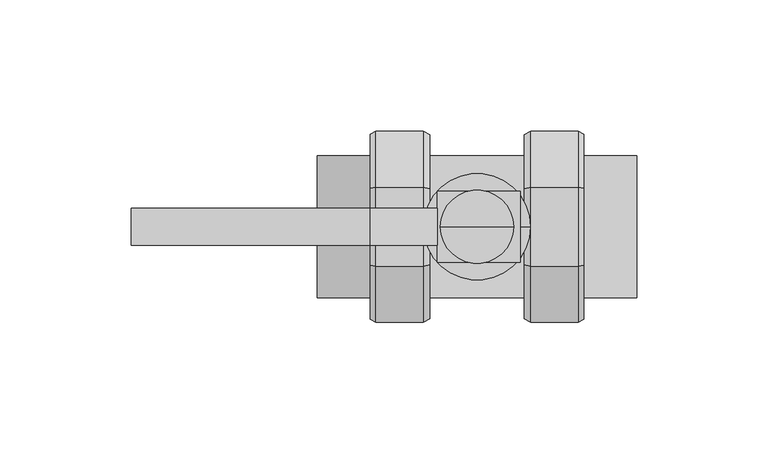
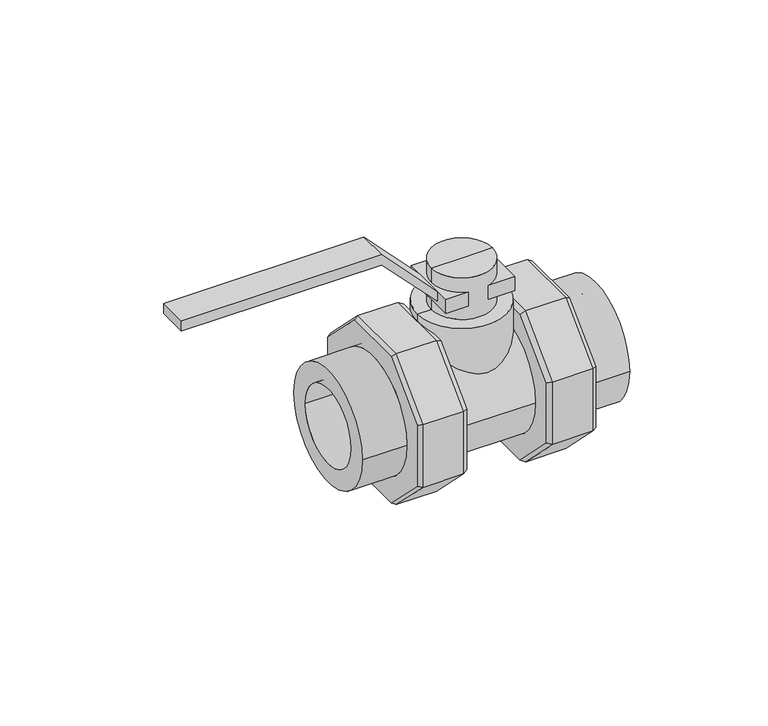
"""IFC4 building model written with IfcOpenShell, lengths in millimetres: valve geometry, EGB_VASEN_ PPR_Valvula de bola doble union WXR800 : Válvula de bola doble unión WXR800."""

from ifc_helpers import new_model, si_unit, point, frame, origin, origin_2d, place, context, project, spatial, polyline, circle_curve, trimmed, segment, composite_curve, outline, extrude, source, transform, mapped, element, save
from ifc_brep_helpers import plane_surface, cylinder_surface, revolved_surface, advanced_brep


def valve_10320c40(model_context):
    return source(origin(), model_context, "Body", "SolidModel", [
        advanced_brep(
        [(38.6666667, 15.118795, 36.5), (38.6666667, 36.5, 15.118795), (20.4559164, 36.5, 15.118795), (20.4559164, 15.118795, 36.5), (20.4559164, -15.118795, 36.5), (38.6666667, -15.118795, 36.5), (38.6666667, -15.118795, -36.5), (38.6666667, -36.5, -15.118795), (20.4559164, -36.5, -15.118795), (20.4559164, -15.118795, -36.5), (20.4559164, 15.118795, -36.5), (38.6666667, 15.118795, -36.5), (20.4559164, -36.5, 15.118795), (38.6666667, -36.5, 15.118795), (20.4559164, 36.5, -15.118795), (38.6666667, 36.5, -15.118795), (40.6666667, 14.6405024, 35.3452995), (40.6666667, -14.6405024, 35.3452995), (40.6666667, -35.3452995, 14.6405024), (40.6666667, -35.3452995, -14.6405024), (40.6666667, -14.6405024, -35.3452995), (40.6666667, 14.6405024, -35.3452995), (40.6666667, 35.3452995, -14.6405024), (40.6666667, 35.3452995, 14.6405024), (40.6666667, 27.0, 0.0), (40.6666667, -27.0, 0.0), (18.0064267, 35.0857864, 14.5330086), (18.0064267, 35.0857864, -14.5330086), (18.0064267, 14.5330086, -35.0857864), (18.0064267, -14.5330086, -35.0857864), (18.0064267, -35.0857864, -14.5330086), (18.0064267, -35.0857864, 14.5330086), (18.0064267, -14.5330086, 35.0857864), (18.0064267, 14.5330086, 35.0857864), (18.0064267, -27.0, 0.0), (18.0064267, 27.0, 0.0)],
        [
            (0, 1),
            (1, 2),
            (2, 3),
            (3, 0),
            (3, 4),
            (4, 5),
            (5, 0),
            (6, 7),
            (7, 8),
            (8, 9),
            (9, 6),
            (9, 10),
            (10, 11),
            (11, 6),
            (4, 12),
            (12, 13),
            (13, 5),
            (12, 8),
            (7, 13),
            (10, 14),
            (14, 15),
            (15, 11),
            (16, 17),
            (17, 18),
            (18, 19),
            (19, 20),
            (20, 21),
            (21, 22),
            (22, 23),
            (23, 16),
            (24, 25, circle_curve(frame((40.6666667, 0.0, 0.0), z_axis=(-1.0, 0.0, 0.0), x_axis=(0.0, -1.0, 0.0)), 27.0)),
            (25, 24, circle_curve(frame((40.6666667, 0.0, 0.0), z_axis=(-1.0, 0.0, 0.0), x_axis=(0.0, -1.0, 0.0)), 27.0)),
            (14, 2),
            (1, 15),
            (26, 27),
            (27, 28),
            (28, 29),
            (29, 30),
            (30, 31),
            (31, 32),
            (32, 33),
            (33, 26),
            (34, 35, circle_curve(frame((18.0064267, 0.0, 0.0), z_axis=(1.0, 0.0, 0.0), x_axis=(0.0, -1.0, 0.0)), 27.0)),
            (35, 34, circle_curve(frame((18.0064267, 0.0, 0.0), z_axis=(1.0, 0.0, 0.0), x_axis=(0.0, -1.0, 0.0)), 27.0)),
            (2, 26),
            (33, 3),
            (23, 1),
            (0, 16),
            (32, 4),
            (5, 17),
            (8, 30),
            (29, 9),
            (19, 7),
            (6, 20),
            (28, 10),
            (11, 21),
            (31, 12),
            (13, 18),
            (27, 14),
            (15, 22),
            (25, 34),
            (35, 24),
        ],
        [
            plane_surface(frame((40.6666667, 36.5, 15.118795), z_axis=(0.0, 0.7071067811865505, 0.7071067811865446), x_axis=(0.0, -0.7071067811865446, 0.7071067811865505))),
            plane_surface(frame((40.6666667, 15.118795, 36.5), z_axis=(0.0, 0.0, 1.0), x_axis=(0.0, -1.0, 0.0))),
            plane_surface(frame((40.6666667, -36.5, -15.118795), z_axis=(0.0, -0.7071067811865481, -0.707106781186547), x_axis=(0.0, 0.707106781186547, -0.7071067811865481))),
            plane_surface(frame((40.6666667, -15.118795, -36.5), z_axis=(0.0, 0.0, -1.0), x_axis=(0.0, 1.0, 0.0))),
            plane_surface(frame((40.6666667, -15.118795, 36.5), z_axis=(0.0, -0.7071067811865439, 0.7071067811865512), x_axis=(0.0, -0.7071067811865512, -0.7071067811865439))),
            plane_surface(frame((40.6666667, -36.5, 15.118795), z_axis=(0.0, -1.0, 0.0), x_axis=(0.0, 0.0, -1.0))),
            plane_surface(frame((40.6666667, 15.118795, -36.5), z_axis=(0.0, 0.7071067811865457, -0.7071067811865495), x_axis=(0.0, 0.7071067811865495, 0.7071067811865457))),
            plane_surface(frame((40.6666667, 0.0, 0.0), z_axis=(1.0, 0.0, 0.0), x_axis=(0.0, 0.0, 1.0))),
            plane_surface(frame((40.6666667, 36.5, -15.118795), z_axis=(0.0, 1.0, 0.0), x_axis=(0.0, 0.0, 1.0))),
            plane_surface(frame((18.0064267, 36.5, -15.118795), z_axis=(-1.0, 0.0, 0.0), x_axis=(0.0, 0.0, 1.0))),
            plane_surface(frame((18.0064267, 35.0857864, 14.5330086), z_axis=(-0.4999999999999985, 0.6123724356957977, 0.6123724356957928), x_axis=(0.0, -0.7071067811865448, 0.7071067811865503))),
            plane_surface(frame((38.6666667, 36.5, 15.118795), z_axis=(0.4999999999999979, 0.6123724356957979, 0.612372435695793), x_axis=(0.0, -0.7071067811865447, 0.7071067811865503))),
            plane_surface(frame((18.0064267, 14.5330086, 35.0857864), z_axis=(-0.49999999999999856, 0.0, 0.8660254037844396), x_axis=(0.0, -1.0, 0.0))),
            plane_surface(frame((38.6666667, 15.118795, 36.5), z_axis=(0.4999999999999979, 0.0, 0.8660254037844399), x_axis=(0.0, -1.0, 0.0))),
            plane_surface(frame((18.0064267, -35.0857864, -14.5330086), z_axis=(-0.49999999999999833, -0.6123724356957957, -0.6123724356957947), x_axis=(0.0, 0.7071067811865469, -0.7071067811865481))),
            plane_surface(frame((38.6666667, -36.5, -15.118795), z_axis=(0.49999999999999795, -0.6123724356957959, -0.612372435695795), x_axis=(0.0, 0.707106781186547, -0.7071067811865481))),
            plane_surface(frame((18.0064267, -14.5330086, -35.0857864), z_axis=(-0.49999999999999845, 0.0, -0.8660254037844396), x_axis=(0.0, 1.0, 0.0))),
            plane_surface(frame((38.6666667, -15.118795, -36.5), z_axis=(0.4999999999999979, 0.0, -0.8660254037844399), x_axis=(0.0, 1.0, 0.0))),
            plane_surface(frame((18.0064267, -14.5330086, 35.0857864), z_axis=(-0.49999999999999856, -0.612372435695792, 0.6123724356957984), x_axis=(0.0, -0.7071067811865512, -0.7071067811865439))),
            plane_surface(frame((38.6666667, -15.118795, 36.5), z_axis=(0.4999999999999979, -0.6123724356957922, 0.6123724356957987), x_axis=(0.0, -0.7071067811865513, -0.7071067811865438))),
            plane_surface(frame((18.0064267, -35.0857864, 14.5330086), z_axis=(-0.4999999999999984, -0.8660254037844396, 0.0), x_axis=(0.0, 0.0, -1.0))),
            plane_surface(frame((38.6666667, -36.5, 15.118795), z_axis=(0.4999999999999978, -0.8660254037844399, 0.0), x_axis=(0.0, 0.0, -1.0))),
            plane_surface(frame((18.0064267, 14.5330086, -35.0857864), z_axis=(-0.49999999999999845, 0.6123724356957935, -0.6123724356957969), x_axis=(0.0, 0.7071067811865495, 0.7071067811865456))),
            plane_surface(frame((38.6666667, 15.118795, -36.5), z_axis=(0.49999999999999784, 0.6123724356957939, -0.612372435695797), x_axis=(0.0, 0.7071067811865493, 0.7071067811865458))),
            plane_surface(frame((18.0064267, 35.0857864, -14.5330086), z_axis=(-0.4999999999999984, 0.8660254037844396, 0.0), x_axis=(0.0, 0.0, 1.0))),
            plane_surface(frame((38.6666667, 36.5, -15.118795), z_axis=(0.4999999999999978, 0.8660254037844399, 0.0), x_axis=(0.0, 0.0, 1.0))),
            revolved_surface(polyline([(18.0064267, -27.0, 0.0), (40.6666667, -27.0, 0.0)]), (40.6666667, 0.0, 0.0), (-1.0, 0.0, 0.0)),
        ],
        [
            (0, [[1, 2, 3, 4]]),
            (1, [[5, 6, 7, -4]]),
            (2, [[8, 9, 10, 11]]),
            (3, [[12, 13, 14, -11]]),
            (4, [[15, 16, 17, -6]]),
            (5, [[18, -9, 19, -16]]),
            (6, [[20, 21, 22, -13]]),
            (7, [[23, 24, 25, 26, 27, 28, 29, 30], [31, 32]]),
            (8, [[33, -2, 34, -21]]),
            (9, [[35, 36, 37, 38, 39, 40, 41, 42], [43, 44]]),
            (10, [[-3, 45, -42, 46]]),
            (11, [[-30, 47, -1, 48]]),
            (12, [[-41, 49, -5, -46]]),
            (13, [[-7, 50, -23, -48]]),
            (14, [[-10, 51, -38, 52]]),
            (15, [[-26, 53, -8, 54]]),
            (16, [[-37, 55, -12, -52]]),
            (17, [[-14, 56, -27, -54]]),
            (18, [[-40, 57, -15, -49]]),
            (19, [[-17, 58, -24, -50]]),
            (20, [[-18, -57, -39, -51]]),
            (21, [[-25, -58, -19, -53]]),
            (22, [[-36, 59, -20, -55]]),
            (23, [[-22, 60, -28, -56]]),
            (24, [[-33, -59, -35, -45]]),
            (25, [[-29, -60, -34, -47]]),
            (26, [[-32, 61, -44, 62]]),
            (26, [[-43, -61, -31, -62]]),
        ],
    ),
        advanced_brep(
        [(-38.6666667, 15.118795, 36.5), (-20.4559164, 15.118795, 36.5), (-20.4559164, 36.5, 15.118795), (-38.6666667, 36.5, 15.118795), (-38.6666667, -15.118795, 36.5), (-20.4559164, -15.118795, 36.5), (-38.6666667, -15.118795, -36.5), (-20.4559164, -15.118795, -36.5), (-20.4559164, -36.5, -15.118795), (-38.6666667, -36.5, -15.118795), (-38.6666667, 15.118795, -36.5), (-20.4559164, 15.118795, -36.5), (-38.6666667, -36.5, 15.118795), (-20.4559164, -36.5, 15.118795), (-38.6666667, 36.5, -15.118795), (-20.4559164, 36.5, -15.118795), (-40.6666667, 14.6405024, 35.3452995), (-40.6666667, 35.3452995, 14.6405024), (-40.6666667, 35.3452995, -14.6405024), (-40.6666667, 14.6405024, -35.3452995), (-40.6666667, -14.6405024, -35.3452995), (-40.6666667, -35.3452995, -14.6405024), (-40.6666667, -35.3452995, 14.6405024), (-40.6666667, -14.6405024, 35.3452995), (-40.6666667, 27.0, 0.0), (-40.6666667, -27.0, 0.0), (-18.0064267, 35.0857864, 14.5330086), (-18.0064267, 14.5330086, 35.0857864), (-18.0064267, -14.5330086, 35.0857864), (-18.0064267, -35.0857864, 14.5330086), (-18.0064267, -35.0857864, -14.5330086), (-18.0064267, -14.5330086, -35.0857864), (-18.0064267, 14.5330086, -35.0857864), (-18.0064267, 35.0857864, -14.5330086), (-18.0064267, -27.0, 0.0), (-18.0064267, 27.0, 0.0)],
        [
            (0, 1),
            (1, 2),
            (2, 3),
            (3, 0),
            (0, 4),
            (4, 5),
            (5, 1),
            (6, 7),
            (7, 8),
            (8, 9),
            (9, 6),
            (6, 10),
            (10, 11),
            (11, 7),
            (4, 12),
            (12, 13),
            (13, 5),
            (12, 9),
            (8, 13),
            (10, 14),
            (14, 15),
            (15, 11),
            (16, 17),
            (17, 18),
            (18, 19),
            (19, 20),
            (20, 21),
            (21, 22),
            (22, 23),
            (23, 16),
            (24, 25, circle_curve(frame((-40.6666667, 0.0, 0.0), z_axis=(1.0, 0.0, 0.0), x_axis=(0.0, -1.0, 0.0)), 27.0)),
            (25, 24, circle_curve(frame((-40.6666667, 0.0, 0.0), z_axis=(1.0, 0.0, 0.0), x_axis=(0.0, -1.0, 0.0)), 27.0)),
            (14, 3),
            (2, 15),
            (26, 27),
            (27, 28),
            (28, 29),
            (29, 30),
            (30, 31),
            (31, 32),
            (32, 33),
            (33, 26),
            (34, 35, circle_curve(frame((-18.0064267, 0.0, 0.0), z_axis=(-1.0, 0.0, 0.0), x_axis=(0.0, -1.0, 0.0)), 27.0)),
            (35, 34, circle_curve(frame((-18.0064267, 0.0, 0.0), z_axis=(-1.0, 0.0, 0.0), x_axis=(0.0, -1.0, 0.0)), 27.0)),
            (1, 27),
            (26, 2),
            (16, 0),
            (3, 17),
            (5, 28),
            (23, 4),
            (7, 31),
            (30, 8),
            (20, 6),
            (9, 21),
            (11, 32),
            (19, 10),
            (13, 29),
            (22, 12),
            (15, 33),
            (18, 14),
            (24, 35),
            (34, 25),
        ],
        [
            plane_surface(frame((-40.6666667, 36.5, 15.118795), z_axis=(0.0, 0.7071067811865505, 0.7071067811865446), x_axis=(0.0, -0.7071067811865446, 0.7071067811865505))),
            plane_surface(frame((-40.6666667, 15.118795, 36.5), z_axis=(0.0, 0.0, 1.0), x_axis=(0.0, -1.0, 0.0))),
            plane_surface(frame((-40.6666667, -36.5, -15.118795), z_axis=(0.0, -0.7071067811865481, -0.707106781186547), x_axis=(0.0, 0.707106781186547, -0.7071067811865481))),
            plane_surface(frame((-40.6666667, -15.118795, -36.5), z_axis=(0.0, 0.0, -1.0), x_axis=(0.0, 1.0, 0.0))),
            plane_surface(frame((-40.6666667, -15.118795, 36.5), z_axis=(0.0, -0.7071067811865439, 0.7071067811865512), x_axis=(0.0, -0.7071067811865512, -0.7071067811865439))),
            plane_surface(frame((-40.6666667, -36.5, 15.118795), z_axis=(0.0, -1.0, 0.0), x_axis=(0.0, 0.0, -1.0))),
            plane_surface(frame((-40.6666667, 15.118795, -36.5), z_axis=(0.0, 0.7071067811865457, -0.7071067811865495), x_axis=(0.0, 0.7071067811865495, 0.7071067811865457))),
            plane_surface(frame((-40.6666667, 0.0, 0.0), z_axis=(-1.0, 0.0, 0.0), x_axis=(0.0, 0.0, 1.0))),
            plane_surface(frame((-40.6666667, 36.5, -15.118795), z_axis=(0.0, 1.0, 0.0), x_axis=(0.0, 0.0, 1.0))),
            plane_surface(frame((-18.0064267, 36.5, -15.118795), z_axis=(1.0, 0.0, 0.0), x_axis=(0.0, 0.0, 1.0))),
            plane_surface(frame((-18.0064267, 35.0857864, 14.5330086), z_axis=(0.4999999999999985, 0.6123724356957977, 0.6123724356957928), x_axis=(0.0, -0.7071067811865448, 0.7071067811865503))),
            plane_surface(frame((-38.6666667, 36.5, 15.118795), z_axis=(-0.4999999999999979, 0.6123724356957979, 0.612372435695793), x_axis=(0.0, -0.7071067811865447, 0.7071067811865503))),
            plane_surface(frame((-18.0064267, 14.5330086, 35.0857864), z_axis=(0.49999999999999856, 0.0, 0.8660254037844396), x_axis=(0.0, -1.0, 0.0))),
            plane_surface(frame((-38.6666667, 15.118795, 36.5), z_axis=(-0.4999999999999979, 0.0, 0.8660254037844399), x_axis=(0.0, -1.0, 0.0))),
            plane_surface(frame((-18.0064267, -35.0857864, -14.5330086), z_axis=(0.49999999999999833, -0.6123724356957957, -0.6123724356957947), x_axis=(0.0, 0.7071067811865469, -0.7071067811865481))),
            plane_surface(frame((-38.6666667, -36.5, -15.118795), z_axis=(-0.49999999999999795, -0.6123724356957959, -0.612372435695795), x_axis=(0.0, 0.707106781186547, -0.7071067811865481))),
            plane_surface(frame((-18.0064267, -14.5330086, -35.0857864), z_axis=(0.49999999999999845, 0.0, -0.8660254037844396), x_axis=(0.0, 1.0, 0.0))),
            plane_surface(frame((-38.6666667, -15.118795, -36.5), z_axis=(-0.4999999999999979, 0.0, -0.8660254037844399), x_axis=(0.0, 1.0, 0.0))),
            plane_surface(frame((-18.0064267, -14.5330086, 35.0857864), z_axis=(0.49999999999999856, -0.612372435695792, 0.6123724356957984), x_axis=(0.0, -0.7071067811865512, -0.7071067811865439))),
            plane_surface(frame((-38.6666667, -15.118795, 36.5), z_axis=(-0.4999999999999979, -0.6123724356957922, 0.6123724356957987), x_axis=(0.0, -0.7071067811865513, -0.7071067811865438))),
            plane_surface(frame((-18.0064267, -35.0857864, 14.5330086), z_axis=(0.4999999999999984, -0.8660254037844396, 0.0), x_axis=(0.0, 0.0, -1.0))),
            plane_surface(frame((-38.6666667, -36.5, 15.118795), z_axis=(-0.4999999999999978, -0.8660254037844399, 0.0), x_axis=(0.0, 0.0, -1.0))),
            plane_surface(frame((-18.0064267, 14.5330086, -35.0857864), z_axis=(0.49999999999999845, 0.6123724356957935, -0.6123724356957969), x_axis=(0.0, 0.7071067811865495, 0.7071067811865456))),
            plane_surface(frame((-38.6666667, 15.118795, -36.5), z_axis=(-0.49999999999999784, 0.6123724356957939, -0.612372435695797), x_axis=(0.0, 0.7071067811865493, 0.7071067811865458))),
            plane_surface(frame((-18.0064267, 35.0857864, -14.5330086), z_axis=(0.4999999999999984, 0.8660254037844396, 0.0), x_axis=(0.0, 0.0, 1.0))),
            plane_surface(frame((-38.6666667, 36.5, -15.118795), z_axis=(-0.4999999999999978, 0.8660254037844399, 0.0), x_axis=(0.0, 0.0, 1.0))),
            revolved_surface(polyline([(-18.0064267, -27.0, 0.0), (-40.6666667, -27.0, 0.0)]), (-40.6666667, 0.0, 0.0), (1.0, 0.0, 0.0)),
        ],
        [
            (0, [[1, 2, 3, 4]]),
            (1, [[-1, 5, 6, 7]]),
            (2, [[8, 9, 10, 11]]),
            (3, [[-8, 12, 13, 14]]),
            (4, [[-6, 15, 16, 17]]),
            (5, [[-16, 18, -10, 19]]),
            (6, [[-13, 20, 21, 22]]),
            (7, [[23, 24, 25, 26, 27, 28, 29, 30], [31, 32]]),
            (8, [[-21, 33, -3, 34]]),
            (9, [[35, 36, 37, 38, 39, 40, 41, 42], [43, 44]]),
            (10, [[45, -35, 46, -2]]),
            (11, [[47, -4, 48, -23]]),
            (12, [[-45, -7, 49, -36]]),
            (13, [[-47, -30, 50, -5]]),
            (14, [[51, -39, 52, -9]]),
            (15, [[53, -11, 54, -27]]),
            (16, [[-51, -14, 55, -40]]),
            (17, [[-53, -26, 56, -12]]),
            (18, [[-49, -17, 57, -37]]),
            (19, [[-50, -29, 58, -15]]),
            (20, [[-52, -38, -57, -19]]),
            (21, [[-54, -18, -58, -28]]),
            (22, [[-55, -22, 59, -41]]),
            (23, [[-56, -25, 60, -20]]),
            (24, [[-46, -42, -59, -34]]),
            (25, [[-48, -33, -60, -24]]),
            (26, [[61, -43, 62, -31]]),
            (26, [[-61, -32, -62, -44]]),
        ],
    ),
        advanced_brep(
        [(0.0, 0.0, 0.0), (-20.3333333, 0.0, 0.0), (20.3333333, 0.0, 0.0), (13.9453445, 0.0, 60.0), (-13.9453445, 0.0, 60.0), (0.0, 0.0, 60.0), (13.9453445, 0.0, 40.0), (-13.9453445, 0.0, 40.0), (20.3333333, 0.0, 40.0), (-20.3333333, 0.0, 40.0)],
        [
            (0, 1),
            (1, 2, circle_curve(frame((0.0, 0.0, 0.0), z_axis=(0.0, 0.0, -1.0), x_axis=(-1.0, 0.0, 0.0)), 20.3333333)),
            (2, 0),
            (2, 1, circle_curve(frame((0.0, 0.0, 0.0), z_axis=(0.0, 0.0, -1.0), x_axis=(-1.0, 0.0, 0.0)), 20.3333333)),
            (3, 4, circle_curve(frame((0.0, 0.0, 60.0), z_axis=(0.0, 0.0, 1.0), x_axis=(-1.0, 0.0, 0.0)), 13.9453445)),
            (4, 5),
            (5, 3),
            (4, 3, circle_curve(frame((0.0, 0.0, 60.0), z_axis=(0.0, 0.0, 1.0), x_axis=(-1.0, 0.0, 0.0)), 13.9453445)),
            (6, 7, circle_curve(frame((0.0, 0.0, 40.0), z_axis=(0.0, 0.0, 1.0), x_axis=(-1.0, 0.0, 0.0)), 13.9453445)),
            (7, 4),
            (3, 6),
            (7, 6, circle_curve(frame((0.0, 0.0, 40.0), z_axis=(0.0, 0.0, 1.0), x_axis=(-1.0, 0.0, 0.0)), 13.9453445)),
            (8, 9, circle_curve(frame((0.0, 0.0, 40.0), z_axis=(0.0, 0.0, 1.0), x_axis=(-1.0, 0.0, 0.0)), 20.3333333)),
            (9, 7),
            (6, 8),
            (9, 8, circle_curve(frame((0.0, 0.0, 40.0), z_axis=(0.0, 0.0, 1.0), x_axis=(-1.0, 0.0, 0.0)), 20.3333333)),
            (1, 9),
            (8, 2),
        ],
        [
            plane_surface(frame((0.0, 0.0, 0.0), z_axis=(0.0, 0.0, -1.0), x_axis=(-1.0, 0.0, 0.0))),
            plane_surface(frame((0.0, 0.0, 60.0), z_axis=(0.0, 0.0, 1.0), x_axis=(-1.0, 0.0, 0.0))),
            cylinder_surface(frame((0.0, 0.0, 91.25), z_axis=(0.0, 0.0, -1.0), x_axis=(-1.0, 0.0, 0.0)), 13.9453445),
            plane_surface(frame((0.0, 0.0, 40.0), z_axis=(0.0, 0.0, 1.0), x_axis=(-1.0, 0.0, 0.0))),
            cylinder_surface(frame((0.0, 0.0, 91.25), z_axis=(0.0, 0.0, -1.0), x_axis=(-1.0, 0.0, 0.0)), 20.3333333),
        ],
        [
            (0, [[1, 2, 3]]),
            (0, [[-3, 4, -1]]),
            (1, [[5, 6, 7]]),
            (1, [[8, -7, -6]]),
            (2, [[9, 10, -5, 11]]),
            (2, [[12, -11, -8, -10]]),
            (3, [[13, 14, -9, 15]]),
            (3, [[16, -15, -12, -14]]),
            (4, [[-2, 17, -13, 18]]),
            (4, [[-4, -18, -16, -17]]),
        ],
    ),
        extrude(outline(composite_curve([segment(trimmed(circle_curve(origin_2d(), 27.0), [point((-27.0, 0.0))], [point((27.0, 0.0))], False, "CARTESIAN"), True, "CONTINUOUS"), segment(trimmed(circle_curve(origin_2d(), 27.0), [point((27.0, 0.0))], [point((-27.0, 0.0))], False, "CARTESIAN"), True, "CONTINUOUS")], self_intersect=False)), frame((-18.2431733, 0.0, 0.0), z_axis=(1.0, 0.0, 0.0), x_axis=(0.0, 1.0, 0.0)), (0.0, 0.0, 1.0), 36.4863466),
        extrude(outline(composite_curve([segment(trimmed(circle_curve(origin_2d(), 27.0), [point((-27.0, 0.0))], [point((27.0, 0.0))], False, "CARTESIAN"), True, "CONTINUOUS"), segment(trimmed(circle_curve(origin_2d(), 27.0), [point((27.0, 0.0))], [point((-27.0, 0.0))], False, "CARTESIAN"), True, "CONTINUOUS")], self_intersect=False), holes=[composite_curve([segment(trimmed(circle_curve(origin_2d(), 18.0), [point((-18.0, 0.0))], [point((18.0, 0.0))], True, "CARTESIAN"), True, "CONTINUOUS"), segment(trimmed(circle_curve(origin_2d(), 18.0), [point((18.0, 0.0))], [point((-18.0, 0.0))], True, "CARTESIAN"), True, "CONTINUOUS")], self_intersect=False)]), frame((-61.0, 0.0, 0.0), z_axis=(1.0, 0.0, 0.0), x_axis=(0.0, 1.0, 0.0)), (0.0, 0.0, 1.0), 20.3333333),
        extrude(outline(composite_curve([segment(trimmed(circle_curve(origin_2d(), 27.0), [point((-27.0, 0.0))], [point((27.0, 0.0))], False, "CARTESIAN"), True, "CONTINUOUS"), segment(trimmed(circle_curve(origin_2d(), 27.0), [point((27.0, 0.0))], [point((-27.0, 0.0))], False, "CARTESIAN"), True, "CONTINUOUS")], self_intersect=False), holes=[composite_curve([segment(trimmed(circle_curve(origin_2d(), 18.0), [point((-18.0, 0.0))], [point((18.0, 0.0))], True, "CARTESIAN"), True, "CONTINUOUS"), segment(trimmed(circle_curve(origin_2d(), 18.0), [point((18.0, 0.0))], [point((-18.0, 0.0))], True, "CARTESIAN"), True, "CONTINUOUS")], self_intersect=False)]), frame((40.6666667, 0.0, 0.0), z_axis=(1.0, 0.0, 0.0), x_axis=(0.0, 1.0, 0.0)), (0.0, 0.0, 1.0), 20.3333333),
        extrude(outline(polyline([(53.3333333, -15.1751142), (80.0, -40.6666667), (80.0, -132.0), (75.0, -132.0), (75.0, -40.6666667), (48.75, -15.1751142), (53.3333333, -15.1751142)])), frame((0.0, -7.0, 0.0), z_axis=(0.0, 1.0, 0.0), x_axis=(0.0, 0.0, 1.0)), (0.0, 0.0, 1.0), 14.0),
        extrude(outline(polyline([(16.4915525, -13.5), (-15.1751142, -13.5), (-15.1751142, 13.5), (16.4915525, 13.5), (16.4915525, -13.5)])), frame((0.0, 0.0, 46.6666667), z_axis=(0.0, 0.0, 1.0), x_axis=(1.0, 0.0, 0.0)), (0.0, 0.0, 1.0), 6.6666667),
        extrude(outline(composite_curve([segment(trimmed(circle_curve(origin_2d(), 18.0), [point((-18.0, 0.0))], [point((18.0, 0.0))], False, "CARTESIAN"), True, "CONTINUOUS"), segment(trimmed(circle_curve(origin_2d(), 18.0), [point((18.0, 0.0))], [point((-18.0, 0.0))], False, "CARTESIAN"), True, "CONTINUOUS")], self_intersect=False)), frame((-40.6666667, 0.0, 0.0), z_axis=(1.0, 0.0, 0.0), x_axis=(0.0, 1.0, 0.0)), (0.0, 0.0, 1.0), 22.4234933),
        extrude(outline(composite_curve([segment(trimmed(circle_curve(origin_2d(), 18.0), [point((-18.0, 0.0))], [point((18.0, 0.0))], False, "CARTESIAN"), True, "CONTINUOUS"), segment(trimmed(circle_curve(origin_2d(), 18.0), [point((18.0, 0.0))], [point((-18.0, 0.0))], False, "CARTESIAN"), True, "CONTINUOUS")], self_intersect=False)), frame((18.2431733, 0.0, 0.0), z_axis=(1.0, 0.0, 0.0), x_axis=(0.0, 1.0, 0.0)), (0.0, 0.0, 1.0), 22.4234933),
    ])


if __name__ == "__main__":
    model = new_model("IFC4")
    model_context = context("Model", 3, world=origin())
    ifc_project = project(units=[si_unit("LENGTHUNIT", "METRE", prefix="MILLI")], contexts=[model_context])
    site = spatial("IfcSite", under=ifc_project)
    building = spatial("IfcBuilding", under=site)
    placement = place(None, origin())
    valve_shape = valve_10320c40(model_context)
    element("IfcValve", 1, ObjectType="EGB_VASEN_ PPR_Valvula de bola doble union WXR800 : Válvula de bola doble unión WXR800", at=placement, inside=building, context=model_context, shape_type="MappedRepresentation", body=[
        mapped(valve_shape, transform((0.0, 0.0, 0.0), x_axis=(1.0, 0.0, 0.0), y_axis=(0.0, 1.0, 0.0), z_axis=(0.0, 0.0, 1.0))),
    ])
    save(model, "model.ifc")
